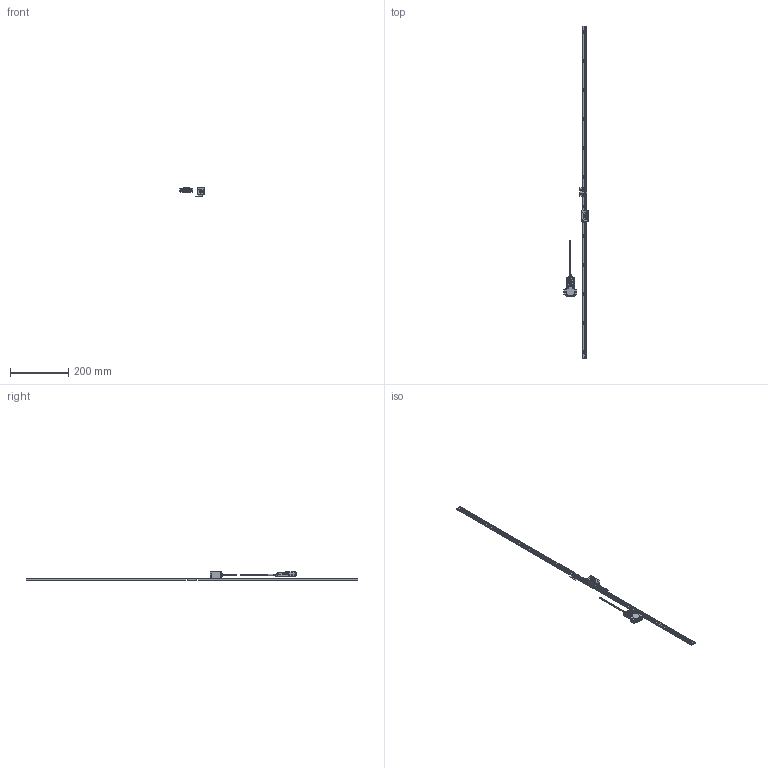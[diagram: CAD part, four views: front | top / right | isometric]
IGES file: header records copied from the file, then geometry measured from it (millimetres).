
Start section: Elysium IGES Interface
Global section: file name: 92HK:\20_商品設計\設計１課\個人\山室\05_作業中雑務\20220810_ST1300 3D HP掲載\ST1300-1100F_G.igs; native system: Creo Elements/Direct Modeling 18.1I  13-Aug-2016; preprocessor: Creo Element/Direct IGES_3D V2.2; author: Unknown; organization: Unknown; date: 20220816.102708; units: millimetre
Bounding box: 83 x 1140 x 30.1 mm (x, y, z)
Volume: 113523.2 mm3; surface area: 70399.2 mm2
Topology: 3 solids, 6 shells, 3502 faces, 9638 edges, 6286 vertices
Faces by surface type: bspline 3502
